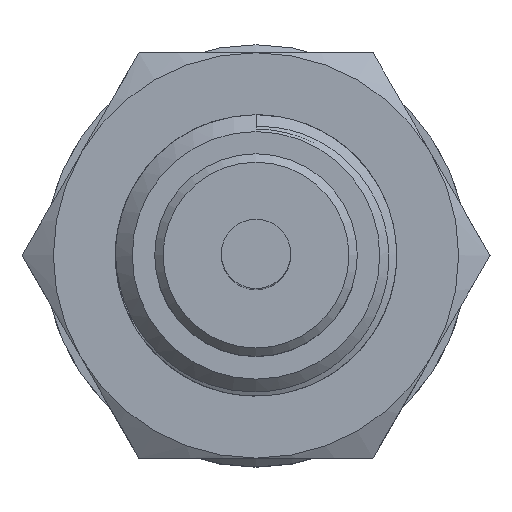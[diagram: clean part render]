
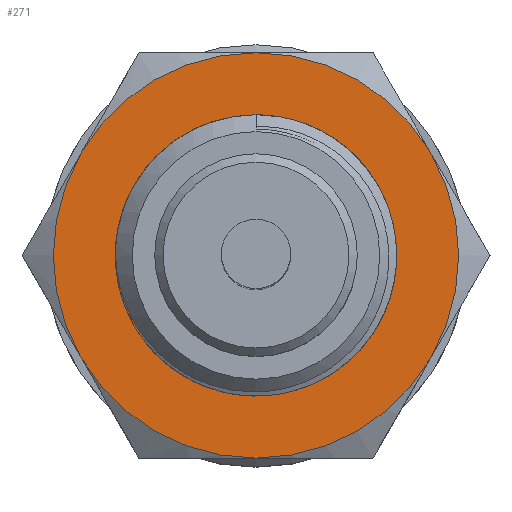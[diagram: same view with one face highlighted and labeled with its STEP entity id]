
A CAD part, top view. The second image highlights one B-rep face of the part: STEP entity #271.
In plain terms, the highlighted planar face has unit normal (0, 0, 1).
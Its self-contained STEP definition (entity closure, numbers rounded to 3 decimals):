
#214=CIRCLE('',#1070,12.);
#215=CIRCLE('',#1071,12.);
#216=CIRCLE('',#1072,12.);
#217=CIRCLE('',#1073,12.);
#218=CIRCLE('',#1074,12.);
#219=CIRCLE('',#1075,12.);
#271=ADVANCED_FACE('',(#351),#314,.T.);
#314=PLANE('',#1076);
#351=FACE_OUTER_BOUND('',#421,.T.);
#421=EDGE_LOOP('',(#691,#692,#693,#694,#695,#696));
#691=ORIENTED_EDGE('',*,*,#944,.T.);
#692=ORIENTED_EDGE('',*,*,#945,.T.);
#693=ORIENTED_EDGE('',*,*,#946,.T.);
#694=ORIENTED_EDGE('',*,*,#947,.T.);
#695=ORIENTED_EDGE('',*,*,#948,.T.);
#696=ORIENTED_EDGE('',*,*,#949,.T.);
#837=VERTEX_POINT('',#3529);
#838=VERTEX_POINT('',#3530);
#839=VERTEX_POINT('',#3532);
#840=VERTEX_POINT('',#3534);
#841=VERTEX_POINT('',#3536);
#842=VERTEX_POINT('',#3538);
#944=EDGE_CURVE('',#837,#838,#214,.T.);
#945=EDGE_CURVE('',#838,#839,#215,.T.);
#946=EDGE_CURVE('',#839,#840,#216,.T.);
#947=EDGE_CURVE('',#840,#841,#217,.T.);
#948=EDGE_CURVE('',#841,#842,#218,.T.);
#949=EDGE_CURVE('',#842,#837,#219,.T.);
#1070=AXIS2_PLACEMENT_3D('',#3528,#1292,#1293);
#1071=AXIS2_PLACEMENT_3D('',#3531,#1294,#1295);
#1072=AXIS2_PLACEMENT_3D('',#3533,#1296,#1297);
#1073=AXIS2_PLACEMENT_3D('',#3535,#1298,#1299);
#1074=AXIS2_PLACEMENT_3D('',#3537,#1300,#1301);
#1075=AXIS2_PLACEMENT_3D('',#3539,#1302,#1303);
#1076=AXIS2_PLACEMENT_3D('',#3540,#1304,#1305);
#1292=DIRECTION('',(0.,0.,1.));
#1293=DIRECTION('',(0.5,-0.866,0.));
#1294=DIRECTION('',(0.,0.,1.));
#1295=DIRECTION('',(0.5,-0.866,0.));
#1296=DIRECTION('',(0.,0.,1.));
#1297=DIRECTION('',(0.5,-0.866,0.));
#1298=DIRECTION('',(0.,0.,1.));
#1299=DIRECTION('',(0.5,-0.866,0.));
#1300=DIRECTION('',(0.,0.,1.));
#1301=DIRECTION('',(0.5,-0.866,0.));
#1302=DIRECTION('',(0.,0.,1.));
#1303=DIRECTION('',(0.5,-0.866,0.));
#1304=DIRECTION('',(0.,0.,1.));
#1305=DIRECTION('',(0.5,-0.866,0.));
#3528=CARTESIAN_POINT('',(0.,0.,
7.));
#3529=CARTESIAN_POINT('',(10.39,-6.004,7.));
#3530=CARTESIAN_POINT('',(10.393,5.998,7.));
#3531=CARTESIAN_POINT('',(0.,0.,
7.));
#3532=CARTESIAN_POINT('',(0.,12.,7.));
#3533=CARTESIAN_POINT('',(0.,0.,
7.));
#3534=CARTESIAN_POINT('',(-10.39,6.004,7.));
#3535=CARTESIAN_POINT('',(0.,0.,
7.));
#3536=CARTESIAN_POINT('',(-10.393,-5.998,7.));
#3537=CARTESIAN_POINT('',(0.,0.,
7.));
#3538=CARTESIAN_POINT('',(0.,-12.,7.));
#3539=CARTESIAN_POINT('',(0.,0.,
7.));
#3540=CARTESIAN_POINT('',(0.,0.,
7.));
